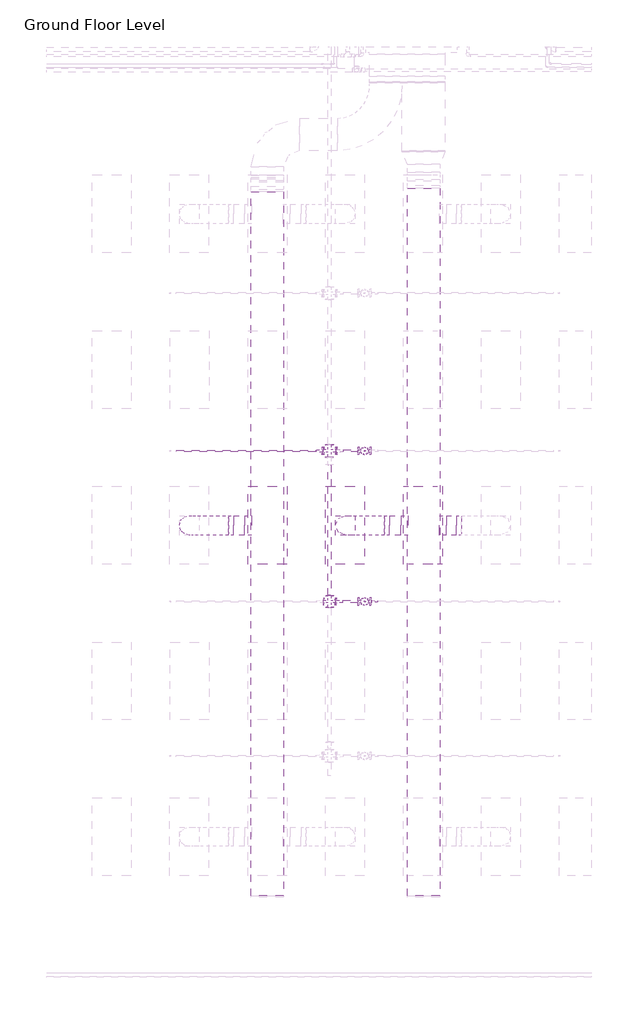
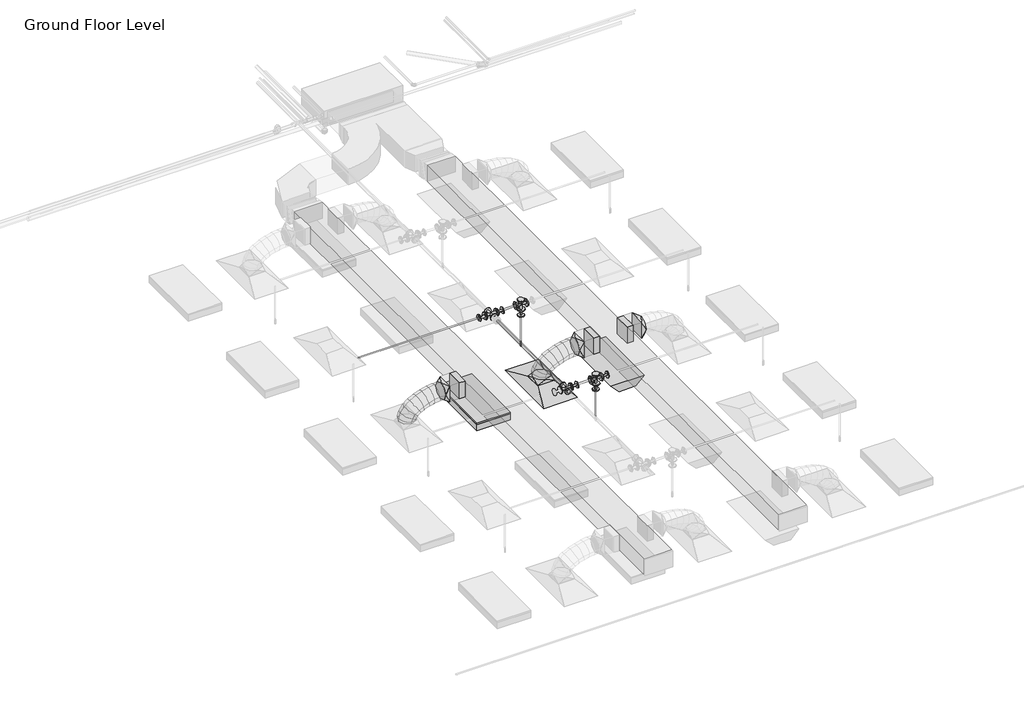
# One storey, part 46 of 74: 10 pipe fittings, 7 duct fittings, 7 duct segments, 6 pipe segments, 2 light fixtures, 1 air terminal, 1 fire suppression terminal.
"""IFC4 building model written with IfcOpenShell, lengths in millimetres."""

from ifc_helpers import new_model, si_unit, point, frame, frame_2d, origin, place, context, project, spatial, polyline, circle_curve, ellipse_curve, trimmed, segment, composite_curve, outline, extrude, transform, mapped, element, save
from ifc_brep_helpers import plane_surface, cylinder_surface, advanced_brep
from components import m_return_diffuser_1200x600_1200_x_600_face_300_x_300_d1983ef6, m_rectangular_takeoff_standard_cb0ccb98, m_rectangular_takeoff_standard_2be5eba1, m_rectangular_to_round_transition_angle_45_degree_641efff0, m_sprinkler_dry_pendent_hosted_15_mm_dry_pendent_9bda8e11, m_emergency_recessed_lighting_fixture_600x1200_277_5b10b25d, m_troffer_light_parabolic_rectangular1_0600x1200mm_4_lamp_86473d4a, m_cross_flanged_cs_class_150_standard_fc817054, m_cross_flanged_cs_class_150_standard_46ec961b, m_reducer_flanged_cs_class_150_standard_b6b67c23, m_reducer_flanged_cs_class_150_standard_ccf252ad, m_reducer_flanged_cs_class_150_standard_d42b2106, m_reducer_flanged_cs_class_150_standard_83138b42, m_reducer_flanged_cs_class_150_standard_8338f9e4, m_tee_round_base_flanged_cs_class_150_standard_7e5987a1

model = new_model("IFC4")

# Units and contexts
model_context = context("Model", 3, world=origin())
ifc_project = project(units=[si_unit("LENGTHUNIT", "METRE", prefix="MILLI")], contexts=[model_context])

# Site, building, storey
site = spatial("IfcSite", under=ifc_project)
building = spatial("IfcBuilding", under=site)
storey = spatial("IfcBuildingStorey", under=building, Name="Ground Floor Level", Elevation=900.0)

# Air terminal
placement = place(None, origin())
m_return_diffuser_1200x600_1200_x_600_face_300_x_300_shape = m_return_diffuser_1200x600_1200_x_600_face_300_x_300_d1983ef6(model_context)
element("IfcAirTerminal", 1, ObjectType="M_Supply Diffuser 1200x600 : 1200 x 600 Face 300 x 300 Connection", at=placement, inside=storey, context=model_context, shape_type="MappedRepresentation", body=[
    mapped(m_return_diffuser_1200x600_1200_x_600_face_300_x_300_shape, transform((-5737.2327605, 6435.2153534, 3650.0), x_axis=(0.0, 1.0, 0.0), y_axis=(-1.0, 0.0, 0.0), z_axis=(0.0, 0.0, 1.0))),
])

# Duct fittings
m_rectangular_takeoff_standard_shape = m_rectangular_takeoff_standard_cb0ccb98(model_context)
element("IfcDuctFitting", 2, ObjectType="M_Rectangular Takeoff : Standard", at=placement, inside=storey, context=model_context, shape_type="MappedRepresentation", body=[
    mapped(m_rectangular_takeoff_standard_shape, transform((-4278.6910789, 6435.2153534, 4150.0), x_axis=(1.0, 0.0, 0.0), y_axis=(0.0, -1.0, 0.0), z_axis=(0.0, 0.0, -1.0))),
])
m_rectangular_takeoff_standard_2_shape = m_rectangular_takeoff_standard_2be5eba1(model_context)
element("IfcDuctFitting", 3, ObjectType="M_Rectangular Takeoff : Standard", at=placement, inside=storey, context=model_context, shape_type="MappedRepresentation", body=[
    mapped(m_rectangular_takeoff_standard_2_shape, transform((-7189.6910789, 6435.2153534, 4150.0), x_axis=(-1.0, 0.0, 0.0), y_axis=(0.0, 1.0, 0.0), z_axis=(0.0, 0.0, -1.0))),
])
element("IfcDuctFitting", 4, ObjectType="M_Rectangular Takeoff : Standard", at=placement, inside=storey, context=model_context, shape_type="MappedRepresentation", body=[
    mapped(m_rectangular_takeoff_standard_2_shape, transform((-4778.6910789, 6435.2153534, 4150.0), x_axis=(-1.0, 0.0, 0.0), y_axis=(0.0, 1.0, 0.0), z_axis=(0.0, 0.0, -1.0))),
])
m_rectangular_to_round_transition_angle_45_degree_shape = m_rectangular_to_round_transition_angle_45_degree_641efff0(model_context)
element("IfcDuctFitting", 5, ObjectType="M_Rectangular to Round Transition - Angle : 45 Degree", at=placement, inside=storey, context=model_context, shape_type="MappedRepresentation", body=[
    mapped(m_rectangular_to_round_transition_angle_45_degree_shape, transform((-4018.6539738, 6435.2153534, 4150.0), x_axis=(1.0, 0.0, 0.0), y_axis=(0.0, 1.0, 0.0), z_axis=(0.0, 0.0, 1.0))),
])
element("IfcDuctFitting", 6, ObjectType="M_Rectangular to Round Transition - Angle : 45 Degree", at=placement, inside=storey, context=model_context, shape_type="MappedRepresentation", body=[
    mapped(m_rectangular_to_round_transition_angle_45_degree_shape, transform((-5737.2327605, 6435.2153534, 3751.6), x_axis=(0.0, 0.0, 1.0), y_axis=(-1.0, 0.0, 0.0), z_axis=(0.0, -1.0, 0.0))),
])
element("IfcDuctFitting", 7, ObjectType="M_Rectangular to Round Transition - Angle : 45 Degree", at=placement, inside=storey, context=model_context, shape_type="MappedRepresentation", body=[
    mapped(m_rectangular_to_round_transition_angle_45_degree_shape, transform((-5055.8115473, 6435.2153534, 4150.0), x_axis=(-1.0, 0.0, 0.0), y_axis=(0.0, -1.0, 0.0), z_axis=(0.0, 0.0, 1.0))),
])
element("IfcDuctFitting", 8, ObjectType="M_Rectangular to Round Transition - Angle : 45 Degree", at=placement, inside=storey, context=model_context, shape_type="MappedRepresentation", body=[
    mapped(m_rectangular_to_round_transition_angle_45_degree_shape, transform((-7461.2487616, 6435.2153534, 4150.0), x_axis=(-1.0, 0.0, 0.0), y_axis=(0.0, -1.0, 0.0), z_axis=(0.0, 0.0, 1.0))),
])

# Duct segments
element("IfcDuctSegment", 9, ObjectType="Flex - Round", at=placement, inside=storey, context=model_context, shape_type="AdvancedBrep", body=[
    advanced_brep(
    [(-5587.2327605, 6435.2153534, 3826.6), (-5737.2327605, 6285.2153534, 3826.6), (-5887.2327605, 6435.2153534, 3826.6), (-5737.2327605, 6585.2153534, 3826.6), (-5587.2327605, 6435.2153534, 3832.4836764), (-5737.2327605, 6285.2153534, 3857.3046173), (-5887.2327605, 6435.2153534, 3882.1255581), (-5737.2327605, 6585.2153534, 3857.3046173), (-5585.103404, 6435.2153534, 3838.7416543), (-5720.5718108, 6285.2153534, 3906.2695763), (-5856.0402176, 6435.2153534, 3973.7974983), (-5720.5718108, 6585.2153534, 3906.2695763), (-5563.0819031, 6435.2153534, 3871.1466478), (-5674.6950292, 6285.2153534, 3973.7779999), (-5786.3081553, 6435.2153534, 4076.409352), (-5674.6950292, 6585.2153534, 3973.7779999), (-5523.1404393, 6435.2153534, 3903.4907359), (-5605.7615172, 6285.2153534, 4029.599479), (-5688.382595, 6435.2153534, 4155.7082221), (-5605.7615172, 6585.2153534, 4029.599479), (-5460.2203199, 6435.2153534, 3936.1920073), (-5519.930376, 6285.2153534, 4074.2082221), (-5579.6404321, 6435.2153534, 4212.2244369), (-5519.930376, 6585.2153534, 4074.2082221), (-5381.3704755, 6435.2153534, 3963.847287), (-5423.360707, 6285.2153534, 4108.0784374), (-5465.3509386, 6435.2153534, 4252.3095878), (-5423.360707, 6585.2153534, 4108.0784374), (-5294.8012537, 6435.2153534, 3984.0505724), (-5322.2116117, 6285.2153534, 4131.6843333), (-5349.6219697, 6435.2153534, 4279.3180942), (-5322.2116117, 6585.2153534, 4131.6843333), (-5208.3198115, 6435.2153534, 3996.0503308), (-5222.6421913, 6285.2153534, 4145.500118), (-5236.9645711, 6435.2153534, 4294.9499053), (-5222.6421913, 6585.2153534, 4145.500118), (-5134.1613712, 6435.2153534, 4000.0), (-5138.1530331, 6285.2153534, 4150.0), (-5142.144695, 6435.2153534, 4300.0), (-5138.1530331, 6585.2153534, 4150.0), (-5130.8115473, 6435.2153534, 4000.0), (-5130.8115473, 6585.2153534, 4150.0), (-5130.8115473, 6435.2153534, 4300.0), (-5130.8115473, 6285.2153534, 4150.0)],
    [
        (0, 1, circle_curve(frame((-5737.2327605, 6435.2153534, 3826.6), z_axis=(0.0, 0.0, -1.0), x_axis=(1.0, 0.0, 0.0)), 150.0)),
        (1, 2, circle_curve(frame((-5737.2327605, 6435.2153534, 3826.6), z_axis=(0.0, 0.0, -1.0), x_axis=(1.0, 0.0, 0.0)), 150.0)),
        (2, 3, circle_curve(frame((-5737.2327605, 6435.2153534, 3826.6), z_axis=(0.0, 0.0, -1.0), x_axis=(1.0, 0.0, 0.0)), 150.0)),
        (3, 0, circle_curve(frame((-5737.2327605, 6435.2153534, 3826.6), z_axis=(0.0, 0.0, -1.0), x_axis=(1.0, 0.0, 0.0)), 150.0)),
        (0, 4),
        (4, 5, ellipse_curve(frame((-5737.2327605, 6435.2153534, 3857.3046173), z_axis=(-0.16325299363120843, 0.0, -0.9865842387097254), x_axis=(0.9865842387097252, 0.0, -0.16325299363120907)), 152.0397287, 150.0)),
        (5, 1),
        (5, 6, ellipse_curve(frame((-5737.2327605, 6435.2153534, 3857.3046173), z_axis=(-0.16325299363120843, 0.0, -0.9865842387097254), x_axis=(0.9865842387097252, 0.0, -0.16325299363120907)), 152.0397287, 150.0)),
        (6, 2),
        (6, 7, ellipse_curve(frame((-5737.2327605, 6435.2153534, 3857.3046173), z_axis=(-0.16325299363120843, 0.0, -0.9865842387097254), x_axis=(0.9865842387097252, 0.0, -0.16325299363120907)), 152.0397287, 150.0)),
        (7, 3),
        (7, 4, ellipse_curve(frame((-5737.2327605, 6435.2153534, 3857.3046173), z_axis=(-0.16325299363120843, 0.0, -0.9865842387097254), x_axis=(0.9865842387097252, 0.0, -0.16325299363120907)), 152.0397287, 150.0)),
        (4, 8),
        (8, 9, ellipse_curve(frame((-5720.5718108, 6435.2153534, 3906.2695763), z_axis=(-0.4461230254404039, 0.0, -0.894971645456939), x_axis=(0.8949716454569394, 0.0, -0.44612302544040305)), 151.3661438, 150.0)),
        (9, 5),
        (9, 10, ellipse_curve(frame((-5720.5718108, 6435.2153534, 3906.2695763), z_axis=(-0.4461230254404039, 0.0, -0.894971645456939), x_axis=(0.8949716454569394, 0.0, -0.44612302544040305)), 151.3661438, 150.0)),
        (10, 6),
        (10, 11, ellipse_curve(frame((-5720.5718108, 6435.2153534, 3906.2695763), z_axis=(-0.4461230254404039, 0.0, -0.894971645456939), x_axis=(0.8949716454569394, 0.0, -0.44612302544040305)), 151.3661438, 150.0)),
        (11, 7),
        (11, 8, ellipse_curve(frame((-5720.5718108, 6435.2153534, 3906.2695763), z_axis=(-0.4461230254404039, 0.0, -0.894971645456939), x_axis=(0.8949716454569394, 0.0, -0.44612302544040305)), 151.3661438, 150.0)),
        (8, 12),
        (12, 13, ellipse_curve(frame((-5674.6950292, 6435.2153534, 3973.7779999), z_axis=(-0.6768681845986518, 0.0, -0.7361042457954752), x_axis=(0.7361042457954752, 0.0, -0.6768681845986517)), 151.626793, 150.0)),
        (13, 9),
        (13, 14, ellipse_curve(frame((-5674.6950292, 6435.2153534, 3973.7779999), z_axis=(-0.6768681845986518, 0.0, -0.7361042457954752), x_axis=(0.7361042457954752, 0.0, -0.6768681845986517)), 151.626793, 150.0)),
        (14, 10),
        (14, 15, ellipse_curve(frame((-5674.6950292, 6435.2153534, 3973.7779999), z_axis=(-0.6768681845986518, 0.0, -0.7361042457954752), x_axis=(0.7361042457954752, 0.0, -0.6768681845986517)), 151.626793, 150.0)),
        (15, 11),
        (15, 12, ellipse_curve(frame((-5674.6950292, 6435.2153534, 3973.7779999), z_axis=(-0.6768681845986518, 0.0, -0.7361042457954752), x_axis=(0.7361042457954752, 0.0, -0.6768681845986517)), 151.626793, 150.0)),
        (12, 16),
        (16, 17, ellipse_curve(frame((-5605.7615172, 6435.2153534, 4029.599479), z_axis=(-0.8364668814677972, 0.0, -0.5480174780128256), x_axis=(0.5480174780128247, 0.0, -0.8364668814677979)), 150.7635818, 150.0)),
        (17, 13),
        (17, 18, ellipse_curve(frame((-5605.7615172, 6435.2153534, 4029.599479), z_axis=(-0.8364668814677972, 0.0, -0.5480174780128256), x_axis=(0.5480174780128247, 0.0, -0.8364668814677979)), 150.7635818, 150.0)),
        (18, 14),
        (18, 19, ellipse_curve(frame((-5605.7615172, 6435.2153534, 4029.599479), z_axis=(-0.8364668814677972, 0.0, -0.5480174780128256), x_axis=(0.5480174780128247, 0.0, -0.8364668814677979)), 150.7635818, 150.0)),
        (19, 15),
        (19, 16, ellipse_curve(frame((-5605.7615172, 6435.2153534, 4029.599479), z_axis=(-0.8364668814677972, 0.0, -0.5480174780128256), x_axis=(0.5480174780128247, 0.0, -0.8364668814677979)), 150.7635818, 150.0)),
        (16, 20),
        (20, 21, ellipse_curve(frame((-5519.930376, 6435.2153534, 4074.2082221), z_axis=(-0.917790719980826, 0.0, -0.3970644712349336), x_axis=(0.3970644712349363, 0.0, -0.9177907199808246)), 150.378743, 150.0)),
        (21, 17),
        (21, 22, ellipse_curve(frame((-5519.930376, 6435.2153534, 4074.2082221), z_axis=(-0.917790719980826, 0.0, -0.3970644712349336), x_axis=(0.3970644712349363, 0.0, -0.9177907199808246)), 150.378743, 150.0)),
        (22, 18),
        (22, 23, ellipse_curve(frame((-5519.930376, 6435.2153534, 4074.2082221), z_axis=(-0.917790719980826, 0.0, -0.3970644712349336), x_axis=(0.3970644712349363, 0.0, -0.9177907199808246)), 150.378743, 150.0)),
        (23, 19),
        (23, 20, ellipse_curve(frame((-5519.930376, 6435.2153534, 4074.2082221), z_axis=(-0.917790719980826, 0.0, -0.3970644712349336), x_axis=(0.3970644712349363, 0.0, -0.9177907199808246)), 150.378743, 150.0)),
        (20, 24),
        (24, 25, ellipse_curve(frame((-5423.360707, 6435.2153534, 4108.0784374), z_axis=(-0.9601380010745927, 0.0, -0.2795264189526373), x_axis=(0.279526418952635, 0.0, -0.9601380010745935)), 150.2191875, 150.0)),
        (25, 21),
        (25, 26, ellipse_curve(frame((-5423.360707, 6435.2153534, 4108.0784374), z_axis=(-0.9601380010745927, 0.0, -0.2795264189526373), x_axis=(0.279526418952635, 0.0, -0.9601380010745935)), 150.2191875, 150.0)),
        (26, 22),
        (26, 27, ellipse_curve(frame((-5423.360707, 6435.2153534, 4108.0784374), z_axis=(-0.9601380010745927, 0.0, -0.2795264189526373), x_axis=(0.279526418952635, 0.0, -0.9601380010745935)), 150.2191875, 150.0)),
        (27, 23),
        (27, 24, ellipse_curve(frame((-5423.360707, 6435.2153534, 4108.0784374), z_axis=(-0.9601380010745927, 0.0, -0.2795264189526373), x_axis=(0.279526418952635, 0.0, -0.9601380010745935)), 150.2191875, 150.0)),
        (24, 28),
        (28, 29, ellipse_curve(frame((-5322.2116117, 6435.2153534, 4131.6843333), z_axis=(-0.9831975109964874, 0.0, -0.1825449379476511), x_axis=(0.1825449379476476, 0.0, -0.9831975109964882)), 150.1567684, 150.0)),
        (29, 25),
        (29, 30, ellipse_curve(frame((-5322.2116117, 6435.2153534, 4131.6843333), z_axis=(-0.9831975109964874, 0.0, -0.1825449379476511), x_axis=(0.1825449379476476, 0.0, -0.9831975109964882)), 150.1567684, 150.0)),
        (30, 26),
        (30, 31, ellipse_curve(frame((-5322.2116117, 6435.2153534, 4131.6843333), z_axis=(-0.9831975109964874, 0.0, -0.1825449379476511), x_axis=(0.1825449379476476, 0.0, -0.9831975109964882)), 150.1567684, 150.0)),
        (31, 27),
        (31, 28, ellipse_curve(frame((-5322.2116117, 6435.2153534, 4131.6843333), z_axis=(-0.9831975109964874, 0.0, -0.1825449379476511), x_axis=(0.1825449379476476, 0.0, -0.9831975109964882)), 150.1567684, 150.0)),
        (28, 32),
        (32, 33, ellipse_curve(frame((-5222.6421913, 6435.2153534, 4145.500118), z_axis=(-0.99543930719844, 0.0, -0.09539698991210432), x_axis=(0.09539698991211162, 0.0, -0.9954393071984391)), 150.1345046, 150.0)),
        (33, 29),
        (33, 34, ellipse_curve(frame((-5222.6421913, 6435.2153534, 4145.500118), z_axis=(-0.99543930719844, 0.0, -0.09539698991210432), x_axis=(0.09539698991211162, 0.0, -0.9954393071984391)), 150.1345046, 150.0)),
        (34, 30),
        (34, 35, ellipse_curve(frame((-5222.6421913, 6435.2153534, 4145.500118), z_axis=(-0.99543930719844, 0.0, -0.09539698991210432), x_axis=(0.09539698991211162, 0.0, -0.9954393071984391)), 150.1345046, 150.0)),
        (35, 31),
        (35, 32, ellipse_curve(frame((-5222.6421913, 6435.2153534, 4145.500118), z_axis=(-0.99543930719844, 0.0, -0.09539698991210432), x_axis=(0.09539698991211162, 0.0, -0.9954393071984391)), 150.1345046, 150.0)),
        (32, 36),
        (36, 37, ellipse_curve(frame((-5138.1530331, 6435.2153534, 4150.0), z_axis=(-0.9996461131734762, 0.0, -0.026601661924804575), x_axis=(0.026601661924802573, 0.0, -0.9996461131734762)), 150.0531018, 150.0)),
        (37, 33),
        (37, 38, ellipse_curve(frame((-5138.1530331, 6435.2153534, 4150.0), z_axis=(-0.9996461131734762, 0.0, -0.026601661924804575), x_axis=(0.026601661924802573, 0.0, -0.9996461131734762)), 150.0531018, 150.0)),
        (38, 34),
        (38, 39, ellipse_curve(frame((-5138.1530331, 6435.2153534, 4150.0), z_axis=(-0.9996461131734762, 0.0, -0.026601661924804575), x_axis=(0.026601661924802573, 0.0, -0.9996461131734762)), 150.0531018, 150.0)),
        (39, 35),
        (39, 36, ellipse_curve(frame((-5138.1530331, 6435.2153534, 4150.0), z_axis=(-0.9996461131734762, 0.0, -0.026601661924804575), x_axis=(0.026601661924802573, 0.0, -0.9996461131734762)), 150.0531018, 150.0)),
        (40, 41, circle_curve(frame((-5130.8115473, 6435.2153534, 4150.0), z_axis=(1.0, 0.0, 0.0), x_axis=(0.0, 0.0, -1.0)), 150.0)),
        (41, 42, circle_curve(frame((-5130.8115473, 6435.2153534, 4150.0), z_axis=(1.0, 0.0, 0.0), x_axis=(0.0, 0.0, -1.0)), 150.0)),
        (42, 43, circle_curve(frame((-5130.8115473, 6435.2153534, 4150.0), z_axis=(1.0, 0.0, 0.0), x_axis=(0.0, 0.0, -1.0)), 150.0)),
        (43, 40, circle_curve(frame((-5130.8115473, 6435.2153534, 4150.0), z_axis=(1.0, 0.0, 0.0), x_axis=(0.0, 0.0, -1.0)), 150.0)),
        (36, 40),
        (43, 37),
        (42, 38),
        (41, 39),
    ],
    [
        plane_surface(frame((-5737.2327605, 6285.2153534, 3826.6), z_axis=(0.0, 0.0, -1.0), x_axis=(1.0, 0.0, 0.0))),
        cylinder_surface(frame((-5737.2327605, 6435.2153534, 3826.6), z_axis=(0.0, 0.0, -1.0), x_axis=(1.0, 0.0, 0.0)), 150.0),
        cylinder_surface(frame((-5737.2327605, 6435.2153534, 3857.3046173), z_axis=(-0.3221256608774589, 0.0, -0.9466969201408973), x_axis=(0.9466969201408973, 0.0, -0.3221256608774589)), 150.0),
        cylinder_surface(frame((-5720.5718108, 6435.2153534, 3906.2695763), z_axis=(-0.5620674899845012, 0.0, -0.8270913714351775), x_axis=(0.8270913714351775, 0.0, -0.5620674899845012)), 150.0),
        cylinder_surface(frame((-5674.6950292, 6435.2153534, 3973.7779999), z_axis=(-0.7771447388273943, 0.0, -0.6293219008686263), x_axis=(0.6293219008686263, 0.0, -0.7771447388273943)), 150.0),
        cylinder_surface(frame((-5605.7615172, 6435.2153534, 4029.599479), z_axis=(-0.8873160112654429, 0.0, -0.4611618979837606), x_axis=(0.4611618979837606, 0.0, -0.8873160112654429)), 150.0),
        cylinder_surface(frame((-5519.930376, 6435.2153534, 4074.2082221), z_axis=(-0.9436423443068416, 0.0, -0.3309669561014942), x_axis=(0.3309669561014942, 0.0, -0.9436423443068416)), 150.0),
        cylinder_surface(frame((-5423.360707, 6435.2153534, 4108.0784374), z_axis=(-0.9738317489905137, 0.0, -0.2272701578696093), x_axis=(0.2272701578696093, 0.0, -0.9738317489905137)), 150.0),
        cylinder_surface(frame((-5322.2116117, 6435.2153534, 4131.6843333), z_axis=(-0.9905102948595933, 0.0, -0.13743855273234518), x_axis=(0.13743855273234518, 0.0, -0.9905102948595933)), 150.0),
        cylinder_surface(frame((-5222.6421913, 6435.2153534, 4145.500118), z_axis=(-0.9985847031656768, 0.0, -0.05318449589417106), x_axis=(0.05318449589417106, 0.0, -0.9985847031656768)), 150.0),
        plane_surface(frame((-5130.8115473, 6435.2153534, 4000.0), z_axis=(1.0, 0.0, 0.0), x_axis=(0.0, 1.0, 0.0))),
        cylinder_surface(frame((-5138.1530331, 6435.2153534, 4150.0), z_axis=(-1.0, 0.0, 0.0), x_axis=(0.0, 0.0, -1.0)), 150.0),
    ],
    [
        (0, [[1, 2, 3, 4]]),
        (1, [[-1, 5, 6, 7]]),
        (1, [[-2, -7, 8, 9]]),
        (1, [[-3, -9, 10, 11]]),
        (1, [[-4, -11, 12, -5]]),
        (2, [[-6, 13, 14, 15]]),
        (2, [[-8, -15, 16, 17]]),
        (2, [[-10, -17, 18, 19]]),
        (2, [[-12, -19, 20, -13]]),
        (3, [[-14, 21, 22, 23]]),
        (3, [[-16, -23, 24, 25]]),
        (3, [[-18, -25, 26, 27]]),
        (3, [[-20, -27, 28, -21]]),
        (4, [[-22, 29, 30, 31]]),
        (4, [[-24, -31, 32, 33]]),
        (4, [[-26, -33, 34, 35]]),
        (4, [[-28, -35, 36, -29]]),
        (5, [[-30, 37, 38, 39]]),
        (5, [[-32, -39, 40, 41]]),
        (5, [[-34, -41, 42, 43]]),
        (5, [[-36, -43, 44, -37]]),
        (6, [[-38, 45, 46, 47]]),
        (6, [[-40, -47, 48, 49]]),
        (6, [[-42, -49, 50, 51]]),
        (6, [[-44, -51, 52, -45]]),
        (7, [[-46, 53, 54, 55]]),
        (7, [[-48, -55, 56, 57]]),
        (7, [[-50, -57, 58, 59]]),
        (7, [[-52, -59, 60, -53]]),
        (8, [[-54, 61, 62, 63]]),
        (8, [[-56, -63, 64, 65]]),
        (8, [[-58, -65, 66, 67]]),
        (8, [[-60, -67, 68, -61]]),
        (9, [[-62, 69, 70, 71]]),
        (9, [[-64, -71, 72, 73]]),
        (9, [[-66, -73, 74, 75]]),
        (9, [[-68, -75, 76, -69]]),
        (10, [[77, 78, 79, 80]]),
        (11, [[-70, 81, -80, 82]]),
        (11, [[-72, -82, -79, 83]]),
        (11, [[-74, -83, -78, 84]]),
        (11, [[-76, -84, -77, -81]]),
    ],
),
])
element("IfcDuctSegment", 10, ObjectType="Flex - Round", at=placement, inside=storey, context=model_context, shape_type="AdvancedBrep", body=[
    advanced_brep(
    [(-7992.6846929, 6435.2153534, 3826.6), (-8142.6846929, 6285.2153534, 3826.6), (-8292.6846929, 6435.2153534, 3826.6), (-8142.6846929, 6585.2153534, 3826.6), (-7992.6846929, 6435.2153534, 3832.4838104), (-8142.6846929, 6285.2153534, 3857.3049615), (-8292.6846929, 6435.2153534, 3882.1261126), (-8142.6846929, 6585.2153534, 3857.3049615), (-7990.555208, 6435.2153534, 3838.7421096), (-8126.0232883, 6285.2153534, 3906.2708192), (-8261.4913687, 6435.2153534, 3973.7995287), (-8126.0232883, 6585.2153534, 3906.2708192), (-7968.5331802, 6435.2153534, 3871.1472855), (-8080.1452707, 6285.2153534, 3973.7798261), (-8191.7573612, 6435.2153534, 4076.4123668), (-8080.1452707, 6585.2153534, 3973.7798261), (-7928.5904556, 6435.2153534, 3903.4915826), (-8011.2099341, 6285.2153534, 4029.6013814), (-8093.8294126, 6435.2153534, 4155.7111802), (-8011.2099341, 6585.2153534, 4029.6013814), (-7865.6682729, 6435.2153534, 3936.1928758), (-7925.3765727, 6285.2153534, 4074.2098454), (-7985.0848725, 6435.2153534, 4212.226815), (-7925.3765727, 6585.2153534, 4074.2098454), (-7786.815881, 6435.2153534, 3963.8479616), (-7828.8044806, 6285.2153534, 4108.0795788), (-7870.7930803, 6435.2153534, 4252.311196), (-7828.8044806, 6585.2153534, 4108.0795788), (-7700.2438983, 6435.2153534, 3984.0509494), (-7727.652952, 6285.2153534, 4131.684942), (-7755.0620057, 6435.2153534, 4279.3189347), (-7727.652952, 6585.2153534, 4131.684942), (-7613.759715, 6435.2153534, 3996.0504424), (-7628.081281, 6285.2153534, 4145.5002956), (-7642.4028469, 6435.2153534, 4294.9501488), (-7628.081281, 6585.2153534, 4145.5002956), (-7539.5984134, 6435.2153534, 4000.0), (-7543.5898089, 6285.2153534, 4150.0), (-7547.5812043, 6435.2153534, 4300.0), (-7543.5898089, 6585.2153534, 4150.0), (-7536.2487616, 6435.2153534, 4000.0), (-7536.2487616, 6585.2153534, 4150.0), (-7536.2487616, 6435.2153534, 4300.0), (-7536.2487616, 6285.2153534, 4150.0)],
    [
        (0, 1, circle_curve(frame((-8142.6846929, 6435.2153534, 3826.6), z_axis=(0.0, 0.0, -1.0), x_axis=(1.0, 0.0, 0.0)), 150.0)),
        (1, 2, circle_curve(frame((-8142.6846929, 6435.2153534, 3826.6), z_axis=(0.0, 0.0, -1.0), x_axis=(1.0, 0.0, 0.0)), 150.0)),
        (2, 3, circle_curve(frame((-8142.6846929, 6435.2153534, 3826.6), z_axis=(0.0, 0.0, -1.0), x_axis=(1.0, 0.0, 0.0)), 150.0)),
        (3, 0, circle_curve(frame((-8142.6846929, 6435.2153534, 3826.6), z_axis=(0.0, 0.0, -1.0), x_axis=(1.0, 0.0, 0.0)), 150.0)),
        (0, 4),
        (4, 5, ellipse_curve(frame((-8142.6846929, 6435.2153534, 3857.3049615), z_axis=(-0.1632543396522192, 0.0, -0.9865840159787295), x_axis=(0.9865840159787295, 0.0, -0.16325433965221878)), 152.039763, 150.0)),
        (5, 1),
        (5, 6, ellipse_curve(frame((-8142.6846929, 6435.2153534, 3857.3049615), z_axis=(-0.1632543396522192, 0.0, -0.9865840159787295), x_axis=(0.9865840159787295, 0.0, -0.16325433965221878)), 152.039763, 150.0)),
        (6, 2),
        (6, 7, ellipse_curve(frame((-8142.6846929, 6435.2153534, 3857.3049615), z_axis=(-0.1632543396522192, 0.0, -0.9865840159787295), x_axis=(0.9865840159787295, 0.0, -0.16325433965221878)), 152.039763, 150.0)),
        (7, 3),
        (7, 4, ellipse_curve(frame((-8142.6846929, 6435.2153534, 3857.3049615), z_axis=(-0.1632543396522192, 0.0, -0.9865840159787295), x_axis=(0.9865840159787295, 0.0, -0.16325433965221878)), 152.039763, 150.0)),
        (4, 8),
        (8, 9, ellipse_curve(frame((-8126.0232883, 6435.2153534, 3906.2708192), z_axis=(-0.44612805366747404, 0.0, -0.8949691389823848), x_axis=(0.8949691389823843, 0.0, -0.44612805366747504)), 151.366203, 150.0)),
        (9, 5),
        (9, 10, ellipse_curve(frame((-8126.0232883, 6435.2153534, 3906.2708192), z_axis=(-0.44612805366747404, 0.0, -0.8949691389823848), x_axis=(0.8949691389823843, 0.0, -0.44612805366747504)), 151.366203, 150.0)),
        (10, 6),
        (10, 11, ellipse_curve(frame((-8126.0232883, 6435.2153534, 3906.2708192), z_axis=(-0.44612805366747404, 0.0, -0.8949691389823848), x_axis=(0.8949691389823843, 0.0, -0.44612805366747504)), 151.366203, 150.0)),
        (11, 7),
        (11, 8, ellipse_curve(frame((-8126.0232883, 6435.2153534, 3906.2708192), z_axis=(-0.44612805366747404, 0.0, -0.8949691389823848), x_axis=(0.8949691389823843, 0.0, -0.44612805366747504)), 151.366203, 150.0)),
        (8, 12),
        (12, 13, ellipse_curve(frame((-8080.1452707, 6435.2153534, 3973.7798261), z_axis=(-0.6768758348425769, 0.0, -0.7360972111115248), x_axis=(0.7360972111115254, 0.0, -0.6768758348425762)), 151.6268352, 150.0)),
        (13, 9),
        (13, 14, ellipse_curve(frame((-8080.1452707, 6435.2153534, 3973.7798261), z_axis=(-0.6768758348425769, 0.0, -0.7360972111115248), x_axis=(0.7360972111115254, 0.0, -0.6768758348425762)), 151.6268352, 150.0)),
        (14, 10),
        (14, 15, ellipse_curve(frame((-8080.1452707, 6435.2153534, 3973.7798261), z_axis=(-0.6768758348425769, 0.0, -0.7360972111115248), x_axis=(0.7360972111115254, 0.0, -0.6768758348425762)), 151.6268352, 150.0)),
        (15, 11),
        (15, 12, ellipse_curve(frame((-8080.1452707, 6435.2153534, 3973.7798261), z_axis=(-0.6768758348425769, 0.0, -0.7360972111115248), x_axis=(0.7360972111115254, 0.0, -0.6768758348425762)), 151.6268352, 150.0)),
        (12, 16),
        (16, 17, ellipse_curve(frame((-8011.2099341, 6435.2153534, 4029.6013814), z_axis=(-0.8364738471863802, 0.0, -0.5480068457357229), x_axis=(0.5480068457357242, 0.0, -0.8364738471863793)), 150.7635884, 150.0)),
        (17, 13),
        (17, 18, ellipse_curve(frame((-8011.2099341, 6435.2153534, 4029.6013814), z_axis=(-0.8364738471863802, 0.0, -0.5480068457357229), x_axis=(0.5480068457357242, 0.0, -0.8364738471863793)), 150.7635884, 150.0)),
        (18, 14),
        (18, 19, ellipse_curve(frame((-8011.2099341, 6435.2153534, 4029.6013814), z_axis=(-0.8364738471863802, 0.0, -0.5480068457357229), x_axis=(0.5480068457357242, 0.0, -0.8364738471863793)), 150.7635884, 150.0)),
        (19, 15),
        (19, 16, ellipse_curve(frame((-8011.2099341, 6435.2153534, 4029.6013814), z_axis=(-0.8364738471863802, 0.0, -0.5480068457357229), x_axis=(0.5480068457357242, 0.0, -0.8364738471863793)), 150.7635884, 150.0)),
        (16, 20),
        (20, 21, ellipse_curve(frame((-7925.3765727, 6435.2153534, 4074.2098454), z_axis=(-0.9177957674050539, 0.0, -0.39705280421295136), x_axis=(0.39705280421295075, 0.0, -0.9177957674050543)), 150.3787384, 150.0)),
        (21, 17),
        (21, 22, ellipse_curve(frame((-7925.3765727, 6435.2153534, 4074.2098454), z_axis=(-0.9177957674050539, 0.0, -0.39705280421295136), x_axis=(0.39705280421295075, 0.0, -0.9177957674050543)), 150.3787384, 150.0)),
        (22, 18),
        (22, 23, ellipse_curve(frame((-7925.3765727, 6435.2153534, 4074.2098454), z_axis=(-0.9177957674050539, 0.0, -0.39705280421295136), x_axis=(0.39705280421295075, 0.0, -0.9177957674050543)), 150.3787384, 150.0)),
        (23, 19),
        (23, 20, ellipse_curve(frame((-7925.3765727, 6435.2153534, 4074.2098454), z_axis=(-0.9177957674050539, 0.0, -0.39705280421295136), x_axis=(0.39705280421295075, 0.0, -0.9177957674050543)), 150.3787384, 150.0)),
        (20, 24),
        (24, 25, ellipse_curve(frame((-7828.8044806, 6435.2153534, 4108.0795788), z_axis=(-0.9601411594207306, 0.0, -0.2795155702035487), x_axis=(0.27951557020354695, 0.0, -0.9601411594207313)), 150.2191795, 150.0)),
        (25, 21),
        (25, 26, ellipse_curve(frame((-7828.8044806, 6435.2153534, 4108.0795788), z_axis=(-0.9601411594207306, 0.0, -0.2795155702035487), x_axis=(0.27951557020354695, 0.0, -0.9601411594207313)), 150.2191795, 150.0)),
        (26, 22),
        (26, 27, ellipse_curve(frame((-7828.8044806, 6435.2153534, 4108.0795788), z_axis=(-0.9601411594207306, 0.0, -0.2795155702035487), x_axis=(0.27951557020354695, 0.0, -0.9601411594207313)), 150.2191795, 150.0)),
        (27, 23),
        (27, 24, ellipse_curve(frame((-7828.8044806, 6435.2153534, 4108.0795788), z_axis=(-0.9601411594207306, 0.0, -0.2795155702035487), x_axis=(0.27951557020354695, 0.0, -0.9601411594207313)), 150.2191795, 150.0)),
        (24, 28),
        (28, 29, ellipse_curve(frame((-7727.652952, 6435.2153534, 4131.684942), z_axis=(-0.9831991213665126, 0.0, -0.1825362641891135), x_axis=(0.1825362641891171, 0.0, -0.9831991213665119)), 150.1567581, 150.0)),
        (29, 25),
        (29, 30, ellipse_curve(frame((-7727.652952, 6435.2153534, 4131.684942), z_axis=(-0.9831991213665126, 0.0, -0.1825362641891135), x_axis=(0.1825362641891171, 0.0, -0.9831991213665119)), 150.1567581, 150.0)),
        (30, 26),
        (30, 31, ellipse_curve(frame((-7727.652952, 6435.2153534, 4131.684942), z_axis=(-0.9831991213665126, 0.0, -0.1825362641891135), x_axis=(0.1825362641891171, 0.0, -0.9831991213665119)), 150.1567581, 150.0)),
        (31, 27),
        (31, 28, ellipse_curve(frame((-7727.652952, 6435.2153534, 4131.684942), z_axis=(-0.9831991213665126, 0.0, -0.1825362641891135), x_axis=(0.1825362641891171, 0.0, -0.9831991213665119)), 150.1567581, 150.0)),
        (28, 32),
        (32, 33, ellipse_curve(frame((-7628.081281, 6435.2153534, 4145.5002956), z_axis=(-0.9954398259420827, 0.0, -0.09539157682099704), x_axis=(0.09539157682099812, 0.0, -0.9954398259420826)), 150.1344926, 150.0)),
        (33, 29),
        (33, 34, ellipse_curve(frame((-7628.081281, 6435.2153534, 4145.5002956), z_axis=(-0.9954398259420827, 0.0, -0.09539157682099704), x_axis=(0.09539157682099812, 0.0, -0.9954398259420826)), 150.1344926, 150.0)),
        (34, 30),
        (34, 35, ellipse_curve(frame((-7628.081281, 6435.2153534, 4145.5002956), z_axis=(-0.9954398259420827, 0.0, -0.09539157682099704), x_axis=(0.09539157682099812, 0.0, -0.9954398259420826)), 150.1344926, 150.0)),
        (35, 31),
        (35, 32, ellipse_curve(frame((-7628.081281, 6435.2153534, 4145.5002956), z_axis=(-0.9954398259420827, 0.0, -0.09539157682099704), x_axis=(0.09539157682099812, 0.0, -0.9954398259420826)), 150.1344926, 150.0)),
        (32, 36),
        (36, 37, ellipse_curve(frame((-7543.5898089, 6435.2153534, 4150.0), z_axis=(-0.9996461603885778, 0.0, -0.026599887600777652), x_axis=(0.026599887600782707, 0.0, -0.9996461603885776)), 150.0530947, 150.0)),
        (37, 33),
        (37, 38, ellipse_curve(frame((-7543.5898089, 6435.2153534, 4150.0), z_axis=(-0.9996461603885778, 0.0, -0.026599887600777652), x_axis=(0.026599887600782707, 0.0, -0.9996461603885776)), 150.0530947, 150.0)),
        (38, 34),
        (38, 39, ellipse_curve(frame((-7543.5898089, 6435.2153534, 4150.0), z_axis=(-0.9996461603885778, 0.0, -0.026599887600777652), x_axis=(0.026599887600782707, 0.0, -0.9996461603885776)), 150.0530947, 150.0)),
        (39, 35),
        (39, 36, ellipse_curve(frame((-7543.5898089, 6435.2153534, 4150.0), z_axis=(-0.9996461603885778, 0.0, -0.026599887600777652), x_axis=(0.026599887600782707, 0.0, -0.9996461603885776)), 150.0530947, 150.0)),
        (40, 41, circle_curve(frame((-7536.2487616, 6435.2153534, 4150.0), z_axis=(1.0, 0.0, 0.0), x_axis=(0.0, 0.0, -1.0)), 150.0)),
        (41, 42, circle_curve(frame((-7536.2487616, 6435.2153534, 4150.0), z_axis=(1.0, 0.0, 0.0), x_axis=(0.0, 0.0, -1.0)), 150.0)),
        (42, 43, circle_curve(frame((-7536.2487616, 6435.2153534, 4150.0), z_axis=(1.0, 0.0, 0.0), x_axis=(0.0, 0.0, -1.0)), 150.0)),
        (43, 40, circle_curve(frame((-7536.2487616, 6435.2153534, 4150.0), z_axis=(1.0, 0.0, 0.0), x_axis=(0.0, 0.0, -1.0)), 150.0)),
        (36, 40),
        (43, 37),
        (42, 38),
        (41, 39),
    ],
    [
        plane_surface(frame((-8142.6846929, 6285.2153534, 3826.6), z_axis=(0.0, 0.0, -1.0), x_axis=(1.0, 0.0, 0.0))),
        cylinder_surface(frame((-8142.6846929, 6435.2153534, 3826.6), z_axis=(0.0, 0.0, -1.0), x_axis=(1.0, 0.0, 0.0)), 150.0),
        cylinder_surface(frame((-8142.6846929, 6435.2153534, 3857.3049615), z_axis=(-0.32212824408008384, 0.0, -0.9466960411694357), x_axis=(0.9466960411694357, 0.0, -0.32212824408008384)), 150.0),
        cylinder_surface(frame((-8126.0232883, 6435.2153534, 3906.2708192), z_axis=(-0.5620745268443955, 0.0, -0.8270865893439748), x_axis=(0.8270865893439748, 0.0, -0.5620745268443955)), 150.0),
        cylinder_surface(frame((-8080.1452707, 6435.2153534, 3973.7798261), z_axis=(-0.777152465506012, 0.0, -0.6293123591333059), x_axis=(0.6293123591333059, 0.0, -0.777152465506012)), 150.0),
        cylinder_surface(frame((-8011.2099341, 6435.2153534, 4029.6013814), z_axis=(-0.887322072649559, 0.0, -0.4611502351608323), x_axis=(0.4611502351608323, 0.0, -0.887322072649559)), 150.0),
        cylinder_surface(frame((-7925.3765727, 6435.2153534, 4074.2098454), z_axis=(-0.9436464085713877, 0.0, -0.3309553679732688), x_axis=(0.3309553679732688, 0.0, -0.9436464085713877)), 150.0),
        cylinder_surface(frame((-7828.8044806, 6435.2153534, 4108.0795788), z_axis=(-0.9738340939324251, 0.0, -0.22726010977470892), x_axis=(0.22726010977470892, 0.0, -0.9738340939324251)), 150.0),
        cylinder_surface(frame((-7727.652952, 6435.2153534, 4131.684942), z_axis=(-0.9905113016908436, 0.0, -0.137431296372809), x_axis=(0.137431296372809, 0.0, -0.9905113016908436)), 150.0),
        cylinder_surface(frame((-7628.081281, 6435.2153534, 4145.5002956), z_axis=(-0.998584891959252, 0.0, -0.05318095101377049), x_axis=(0.05318095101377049, 0.0, -0.998584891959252)), 150.0),
        plane_surface(frame((-7536.2487616, 6435.2153534, 4000.0), z_axis=(1.0, 0.0, 0.0), x_axis=(0.0, 1.0, 0.0))),
        cylinder_surface(frame((-7543.5898089, 6435.2153534, 4150.0), z_axis=(-1.0, 0.0, 0.0), x_axis=(0.0, 0.0, -1.0)), 150.0),
    ],
    [
        (0, [[1, 2, 3, 4]]),
        (1, [[-1, 5, 6, 7]]),
        (1, [[-2, -7, 8, 9]]),
        (1, [[-3, -9, 10, 11]]),
        (1, [[-4, -11, 12, -5]]),
        (2, [[-6, 13, 14, 15]]),
        (2, [[-8, -15, 16, 17]]),
        (2, [[-10, -17, 18, 19]]),
        (2, [[-12, -19, 20, -13]]),
        (3, [[-14, 21, 22, 23]]),
        (3, [[-16, -23, 24, 25]]),
        (3, [[-18, -25, 26, 27]]),
        (3, [[-20, -27, 28, -21]]),
        (4, [[-22, 29, 30, 31]]),
        (4, [[-24, -31, 32, 33]]),
        (4, [[-26, -33, 34, 35]]),
        (4, [[-28, -35, 36, -29]]),
        (5, [[-30, 37, 38, 39]]),
        (5, [[-32, -39, 40, 41]]),
        (5, [[-34, -41, 42, 43]]),
        (5, [[-36, -43, 44, -37]]),
        (6, [[-38, 45, 46, 47]]),
        (6, [[-40, -47, 48, 49]]),
        (6, [[-42, -49, 50, 51]]),
        (6, [[-44, -51, 52, -45]]),
        (7, [[-46, 53, 54, 55]]),
        (7, [[-48, -55, 56, 57]]),
        (7, [[-50, -57, 58, 59]]),
        (7, [[-52, -59, 60, -53]]),
        (8, [[-54, 61, 62, 63]]),
        (8, [[-56, -63, 64, 65]]),
        (8, [[-58, -65, 66, 67]]),
        (8, [[-60, -67, 68, -61]]),
        (9, [[-62, 69, 70, 71]]),
        (9, [[-64, -71, 72, 73]]),
        (9, [[-66, -73, 74, 75]]),
        (9, [[-68, -75, 76, -69]]),
        (10, [[77, 78, 79, 80]]),
        (11, [[-70, 81, -80, 82]]),
        (11, [[-72, -82, -79, 83]]),
        (11, [[-74, -83, -78, 84]]),
        (11, [[-76, -84, -77, -81]]),
    ],
),
])
element("IfcDuctSegment", 11, ObjectType="Radius Elbows / Taps", at=placement, inside=storey, context=model_context, shape_type="SweptSolid", body=[
    extrude(outline(polyline([(0.0, -500.0), (0.0, 0.0), (10907.5406802, 0.0), (10907.5406802, -500.0), (0.0, -500.0)])), frame((-4278.6910789, 11632.7713459, 3999.998201), z_axis=(0.0, 3.864729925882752e-06, 0.999999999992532), x_axis=(0.0, -0.999999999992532, 3.864729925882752e-06)), (0.0, 0.0, 1.0), 300.0),
])
element("IfcDuctSegment", 12, ObjectType="Radius Elbows / Taps", at=placement, inside=storey, context=model_context, shape_type="SweptSolid", body=[
    extrude(outline(polyline([(-6689.6910789, 725.2153534), (-7189.6910789, 725.2153534), (-7189.6910789, 11576.9494141), (-6689.6910789, 11576.9494141), (-6689.6910789, 725.2153534)])), frame((0.0, 0.0, 4000.0), z_axis=(0.0, 0.0, 1.0), x_axis=(1.0, 0.0, 0.0)), (0.0, 0.0, 1.0), 300.0),
])
element("IfcDuctSegment", 13, ObjectType="Radius Elbows / Taps", at=placement, inside=storey, context=model_context, shape_type="SweptSolid", body=[
    extrude(outline(polyline([(-7291.2910789, 6585.2153534), (-7291.2910789, 6285.2153534), (-7461.2487616, 6285.2153534), (-7461.2487616, 6585.2153534), (-7291.2910789, 6585.2153534)])), frame((0.0, 0.0, 4000.0), z_axis=(0.0, 0.0, 1.0), x_axis=(1.0, 0.0, 0.0)), (0.0, 0.0, 1.0), 300.0),
])
element("IfcDuctSegment", 14, ObjectType="Radius Elbows / Taps", at=placement, inside=storey, context=model_context, shape_type="SweptSolid", body=[
    extrude(outline(polyline([(-4177.0910789, 6285.2153534), (-4177.0910789, 6585.2153534), (-4018.6539738, 6585.2153534), (-4018.6539738, 6285.2153534), (-4177.0910789, 6285.2153534)])), frame((0.0, 0.0, 4000.0), z_axis=(0.0, 0.0, 1.0), x_axis=(1.0, 0.0, 0.0)), (0.0, 0.0, 1.0), 300.0),
])
element("IfcDuctSegment", 15, ObjectType="Radius Elbows / Taps", at=placement, inside=storey, context=model_context, shape_type="SweptSolid", body=[
    extrude(outline(polyline([(-4880.2910789, 6585.2153534), (-4880.2910789, 6285.2153534), (-5055.8115473, 6285.2153534), (-5055.8115473, 6585.2153534), (-4880.2910789, 6585.2153534)])), frame((0.0, 0.0, 4000.0), z_axis=(0.0, 0.0, 1.0), x_axis=(1.0, 0.0, 0.0)), (0.0, 0.0, 1.0), 300.0),
])

# Fire suppression terminal
m_sprinkler_dry_pendent_hosted_15_mm_dry_pendent_shape = m_sprinkler_dry_pendent_hosted_15_mm_dry_pendent_9bda8e11(model_context)
element("IfcFireSuppressionTerminal", 16, ObjectType="M_Sprinkler - Dry - Pendent - Hosted : 15 mm Dry Pendent", at=placement, inside=storey, context=model_context, shape_type="MappedRepresentation", body=[
    mapped(m_sprinkler_dry_pendent_hosted_15_mm_dry_pendent_shape, transform((-5437.2327605, 7582.7040742, 3650.0), x_axis=(1.0, 0.0, 0.0), y_axis=(0.0, -1.0, 0.0), z_axis=(0.0, 0.0, -1.0))),
])

# Light fixtures
m_emergency_recessed_lighting_fixture_600x1200_277_shape = m_emergency_recessed_lighting_fixture_600x1200_277_5b10b25d(model_context)
element("IfcLightFixture", 17, ObjectType="M_Emergency Recessed Lighting Fixture : 600x1200 - 277", at=placement, inside=storey, context=model_context, shape_type="MappedRepresentation", body=[
    mapped(m_emergency_recessed_lighting_fixture_600x1200_277_shape, transform((-4837.2327605, 5835.2153534, 3650.0), x_axis=(0.0, 1.0, 0.0), y_axis=(-1.0, 0.0, 0.0), z_axis=(0.0, 0.0, 1.0))),
])
m_troffer_light_parabolic_rectangular1_0600x1200mm_4_lamp_shape = m_troffer_light_parabolic_rectangular1_0600x1200mm_4_lamp_86473d4a(model_context)
element("IfcLightFixture", 18, ObjectType="M_Troffer Light - Parabolic Rectangular1 : 0600x1200mm(4 Lamp) - 277V 2", at=placement, inside=storey, context=model_context, shape_type="MappedRepresentation", body=[
    mapped(m_troffer_light_parabolic_rectangular1_0600x1200mm_4_lamp_shape, transform((-6996.6986926, 6453.918855, 3650.0), x_axis=(0.0, 1.0, 0.0), y_axis=(-1.0, 0.0, 0.0), z_axis=(0.0, 0.0, 1.0))),
])

# Pipe fittings
m_cross_flanged_cs_class_150_standard_shape = m_cross_flanged_cs_class_150_standard_fc817054(model_context)
element("IfcPipeFitting", 19, ObjectType="M_Cross - Flanged - CS - Class 150 : Standard", at=placement, inside=storey, context=model_context, shape_type="MappedRepresentation", body=[
    mapped(m_cross_flanged_cs_class_150_standard_shape, transform((-5978.130502, 7582.7040742, 4360.0), x_axis=(0.0, 1.0, 0.0), y_axis=(1.0, 0.0, 0.0), z_axis=(0.0, 0.0, -1.0))),
])
m_cross_flanged_cs_class_150_standard_2_shape = m_cross_flanged_cs_class_150_standard_46ec961b(model_context)
element("IfcPipeFitting", 20, ObjectType="M_Cross - Flanged - CS - Class 150 : Standard", at=placement, inside=storey, context=model_context, shape_type="MappedRepresentation", body=[
    mapped(m_cross_flanged_cs_class_150_standard_2_shape, transform((-5978.130502, 5261.0372753, 4360.0), x_axis=(0.0, 1.0, 0.0), y_axis=(1.0, 0.0, 0.0), z_axis=(0.0, 0.0, -1.0))),
])
m_reducer_flanged_cs_class_150_standard_shape = m_reducer_flanged_cs_class_150_standard_b6b67c23(model_context)
element("IfcPipeFitting", 21, ObjectType="M_Reducer - Flanged - CS - Class 150 : Standard", at=placement, inside=storey, context=model_context, shape_type="MappedRepresentation", body=[
    mapped(m_reducer_flanged_cs_class_150_standard_shape, transform((-5883.130502, 5261.0372753, 4360.0), x_axis=(1.0, 0.0, 0.0), y_axis=(0.0, 1.0, 0.0), z_axis=(0.0, 0.0, 1.0))),
])
m_reducer_flanged_cs_class_150_standard_2_shape = m_reducer_flanged_cs_class_150_standard_ccf252ad(model_context)
element("IfcPipeFitting", 22, ObjectType="M_Reducer - Flanged - CS - Class 150 : Standard", at=placement, inside=storey, context=model_context, shape_type="MappedRepresentation", body=[
    mapped(m_reducer_flanged_cs_class_150_standard_2_shape, transform((-5437.2327605, 5261.0372753, 4259.2914063), x_axis=(0.0, 0.0, -1.0), y_axis=(-1.0, 0.0, 0.0), z_axis=(0.0, 1.0, 0.0))),
])
element("IfcPipeFitting", 23, ObjectType="M_Reducer - Flanged - CS - Class 150 : Standard", at=placement, inside=storey, context=model_context, shape_type="MappedRepresentation", body=[
    mapped(m_reducer_flanged_cs_class_150_standard_2_shape, transform((-5437.2327605, 7582.7040742, 4259.2914063), x_axis=(0.0, 0.0, -1.0), y_axis=(-1.0, 0.0, 0.0), z_axis=(0.0, 1.0, 0.0))),
])
m_reducer_flanged_cs_class_150_standard_3_shape = m_reducer_flanged_cs_class_150_standard_d42b2106(model_context)
element("IfcPipeFitting", 24, ObjectType="M_Reducer - Flanged - CS - Class 150 : Standard", at=placement, inside=storey, context=model_context, shape_type="MappedRepresentation", body=[
    mapped(m_reducer_flanged_cs_class_150_standard_3_shape, transform((-5336.5241668, 5261.0372753, 4360.0), x_axis=(1.0, 0.0, 0.0), y_axis=(0.0, 1.0, 0.0), z_axis=(0.0, 0.0, 1.0))),
])
m_reducer_flanged_cs_class_150_standard_4_shape = m_reducer_flanged_cs_class_150_standard_83138b42(model_context)
element("IfcPipeFitting", 25, ObjectType="M_Reducer - Flanged - CS - Class 150 : Standard", at=placement, inside=storey, context=model_context, shape_type="MappedRepresentation", body=[
    mapped(m_reducer_flanged_cs_class_150_standard_4_shape, transform((-6080.130502, 7582.7040742, 4360.0), x_axis=(-1.0, 0.0, 0.0), y_axis=(0.0, 0.0, -1.0), z_axis=(0.0, -1.0, 0.0))),
])
m_reducer_flanged_cs_class_150_standard_5_shape = m_reducer_flanged_cs_class_150_standard_8338f9e4(model_context)
element("IfcPipeFitting", 26, ObjectType="M_Reducer - Flanged - CS - Class 150 : Standard", at=placement, inside=storey, context=model_context, shape_type="MappedRepresentation", body=[
    mapped(m_reducer_flanged_cs_class_150_standard_5_shape, transform((-5876.130502, 7582.7040742, 4360.0), x_axis=(1.0, 0.0, 0.0), y_axis=(0.0, 1.0, 0.0), z_axis=(0.0, 0.0, 1.0))),
])
m_tee_round_base_flanged_cs_class_150_standard_shape = m_tee_round_base_flanged_cs_class_150_standard_7e5987a1(model_context)
element("IfcPipeFitting", 27, ObjectType="M_Tee Round Base - Flanged - CS - Class 150 : Standard", at=placement, inside=storey, context=model_context, shape_type="MappedRepresentation", body=[
    mapped(m_tee_round_base_flanged_cs_class_150_standard_shape, transform((-5437.2327605, 5261.0372753, 4360.0), x_axis=(1.0, 0.0, 0.0), y_axis=(0.0, 0.0, 1.0), z_axis=(0.0, -1.0, 0.0))),
])
element("IfcPipeFitting", 28, ObjectType="M_Tee Round Base - Flanged - CS - Class 150 : Standard", at=placement, inside=storey, context=model_context, shape_type="MappedRepresentation", body=[
    mapped(m_tee_round_base_flanged_cs_class_150_standard_shape, transform((-5437.2327605, 7582.7040742, 4360.0), x_axis=(1.0, 0.0, 0.0), y_axis=(0.0, 0.0, 1.0), z_axis=(0.0, -1.0, 0.0))),
])

# Pipe segments
element("IfcPipeSegment", 29, ObjectType="Steel flanged", at=placement, inside=storey, context=model_context, shape_type="SweptSolid", body=[
    extrude(outline(composite_curve([segment(trimmed(circle_curve(frame_2d((7582.7040742, 4360.0)), 10.668), [point((7572.0360742, 4360.0))], [point((7582.7040742, 4370.668))], False, "CARTESIAN"), True, "CONTINUOUS"), segment(trimmed(circle_curve(frame_2d((7582.7040742, 4360.0)), 10.668), [point((7582.7040742, 4370.668))], [point((7593.3720742, 4360.0))], False, "CARTESIAN"), True, "CONTINUOUS"), segment(trimmed(circle_curve(frame_2d((7582.7040742, 4360.0)), 10.668), [point((7593.3720742, 4360.0))], [point((7582.7040742, 4349.332))], False, "CARTESIAN"), True, "CONTINUOUS"), segment(trimmed(circle_curve(frame_2d((7582.7040742, 4360.0)), 10.668), [point((7582.7040742, 4349.332))], [point((7572.0360742, 4360.0))], False, "CARTESIAN"), True, "CONTINUOUS")], self_intersect=False)), frame((-8344.2241668, 0.0, 0.0), z_axis=(1.0, 0.0, 0.0), x_axis=(0.0, 1.0, 0.0)), (0.0, 0.0, 1.0), 2150.0936648),
])
element("IfcPipeSegment", 30, ObjectType="Steel flanged", at=placement, inside=storey, context=model_context, shape_type="SweptSolid", body=[
    extrude(outline(composite_curve([segment(trimmed(circle_curve(frame_2d((4360.0, -5978.130502)), 21.082), [point((4360.0, -5999.212502))], [point((4338.918, -5978.130502))], False, "CARTESIAN"), True, "CONTINUOUS"), segment(trimmed(circle_curve(frame_2d((4360.0, -5978.130502)), 21.082), [point((4338.918, -5978.130502))], [point((4360.0, -5957.048502))], False, "CARTESIAN"), True, "CONTINUOUS"), segment(trimmed(circle_curve(frame_2d((4360.0, -5978.130502)), 21.082), [point((4360.0, -5957.048502))], [point((4381.082, -5978.130502))], False, "CARTESIAN"), True, "CONTINUOUS"), segment(trimmed(circle_curve(frame_2d((4360.0, -5978.130502)), 21.082), [point((4381.082, -5978.130502))], [point((4360.0, -5999.212502))], False, "CARTESIAN"), True, "CONTINUOUS")], self_intersect=False)), frame((0.0, 5356.0372753, 0.0), z_axis=(0.0, 1.0, 0.0), x_axis=(0.0, 0.0, 1.0)), (0.0, 0.0, 1.0), 2010.6667989),
])
element("IfcPipeSegment", 31, ObjectType="Steel flanged", at=placement, inside=storey, context=model_context, shape_type="SweptSolid", body=[
    extrude(outline(composite_curve([segment(trimmed(circle_curve(frame_2d((-5437.2327605, 5261.0372753)), 10.668), [point((-5447.9007605, 5261.0372753))], [point((-5437.2327605, 5271.7052753))], False, "CARTESIAN"), True, "CONTINUOUS"), segment(trimmed(circle_curve(frame_2d((-5437.2327605, 5261.0372753)), 10.668), [point((-5437.2327605, 5271.7052753))], [point((-5426.5647605, 5261.0372753))], False, "CARTESIAN"), True, "CONTINUOUS"), segment(trimmed(circle_curve(frame_2d((-5437.2327605, 5261.0372753)), 10.668), [point((-5426.5647605, 5261.0372753))], [point((-5437.2327605, 5250.3692753))], False, "CARTESIAN"), True, "CONTINUOUS"), segment(trimmed(circle_curve(frame_2d((-5437.2327605, 5261.0372753)), 10.668), [point((-5437.2327605, 5250.3692753))], [point((-5447.9007605, 5261.0372753))], False, "CARTESIAN"), True, "CONTINUOUS")], self_intersect=False)), frame((0.0, 0.0, 3650.0), z_axis=(0.0, 0.0, 1.0), x_axis=(1.0, 0.0, 0.0)), (0.0, 0.0, 1.0), 495.2914062),
])
element("IfcPipeSegment", 32, ObjectType="Steel flanged", at=placement, inside=storey, context=model_context, shape_type="SweptSolid", body=[
    extrude(outline(composite_curve([segment(trimmed(circle_curve(frame_2d((5261.0372753, 4360.0)), 16.7005), [point((5277.7377753, 4360.0))], [point((5261.0372753, 4343.2995))], False, "CARTESIAN"), True, "CONTINUOUS"), segment(trimmed(circle_curve(frame_2d((5261.0372753, 4360.0)), 16.7005), [point((5261.0372753, 4343.2995))], [point((5244.3367753, 4360.0))], False, "CARTESIAN"), True, "CONTINUOUS"), segment(trimmed(circle_curve(frame_2d((5261.0372753, 4360.0)), 16.7005), [point((5244.3367753, 4360.0))], [point((5261.0372753, 4376.7005))], False, "CARTESIAN"), True, "CONTINUOUS"), segment(trimmed(circle_curve(frame_2d((5261.0372753, 4360.0)), 16.7005), [point((5261.0372753, 4376.7005))], [point((5277.7377753, 4360.0))], False, "CARTESIAN"), True, "CONTINUOUS")], self_intersect=False)), frame((-5769.130502, 0.0, 0.0), z_axis=(1.0, 0.0, 0.0), x_axis=(0.0, 1.0, 0.0)), (0.0, 0.0, 1.0), 231.1891477),
])
element("IfcPipeSegment", 33, ObjectType="Steel flanged", at=placement, inside=storey, context=model_context, shape_type="SweptSolid", body=[
    extrude(outline(composite_curve([segment(trimmed(circle_curve(frame_2d((-5437.2327605, 7582.7040742)), 10.668), [point((-5447.9007605, 7582.7040742))], [point((-5437.2327605, 7593.3720742))], False, "CARTESIAN"), True, "CONTINUOUS"), segment(trimmed(circle_curve(frame_2d((-5437.2327605, 7582.7040742)), 10.668), [point((-5437.2327605, 7593.3720742))], [point((-5426.5647605, 7582.7040742))], False, "CARTESIAN"), True, "CONTINUOUS"), segment(trimmed(circle_curve(frame_2d((-5437.2327605, 7582.7040742)), 10.668), [point((-5426.5647605, 7582.7040742))], [point((-5437.2327605, 7572.0360742))], False, "CARTESIAN"), True, "CONTINUOUS"), segment(trimmed(circle_curve(frame_2d((-5437.2327605, 7582.7040742)), 10.668), [point((-5437.2327605, 7572.0360742))], [point((-5447.9007605, 7582.7040742))], False, "CARTESIAN"), True, "CONTINUOUS")], self_intersect=False)), frame((0.0, 0.0, 3650.0), z_axis=(0.0, 0.0, 1.0), x_axis=(1.0, 0.0, 0.0)), (0.0, 0.0, 1.0), 495.2914062),
])
element("IfcPipeSegment", 34, ObjectType="Steel flanged", at=placement, inside=storey, context=model_context, shape_type="SweptSolid", body=[
    extrude(outline(composite_curve([segment(trimmed(circle_curve(frame_2d((7582.7040742, 4360.0)), 16.7005), [point((7599.4045742, 4360.0))], [point((7582.7040742, 4343.2995))], False, "CARTESIAN"), True, "CONTINUOUS"), segment(trimmed(circle_curve(frame_2d((7582.7040742, 4360.0)), 16.7005), [point((7582.7040742, 4343.2995))], [point((7566.0035742, 4360.0))], False, "CARTESIAN"), True, "CONTINUOUS"), segment(trimmed(circle_curve(frame_2d((7582.7040742, 4360.0)), 16.7005), [point((7566.0035742, 4360.0))], [point((7582.7040742, 4376.7005))], False, "CARTESIAN"), True, "CONTINUOUS"), segment(trimmed(circle_curve(frame_2d((7582.7040742, 4360.0)), 16.7005), [point((7582.7040742, 4376.7005))], [point((7599.4045742, 4360.0))], False, "CARTESIAN"), True, "CONTINUOUS")], self_intersect=False)), frame((-5762.130502, 0.0, 0.0), z_axis=(1.0, 0.0, 0.0), x_axis=(0.0, 1.0, 0.0)), (0.0, 0.0, 1.0), 224.1891477),
])

save(model, "model.ifc")
